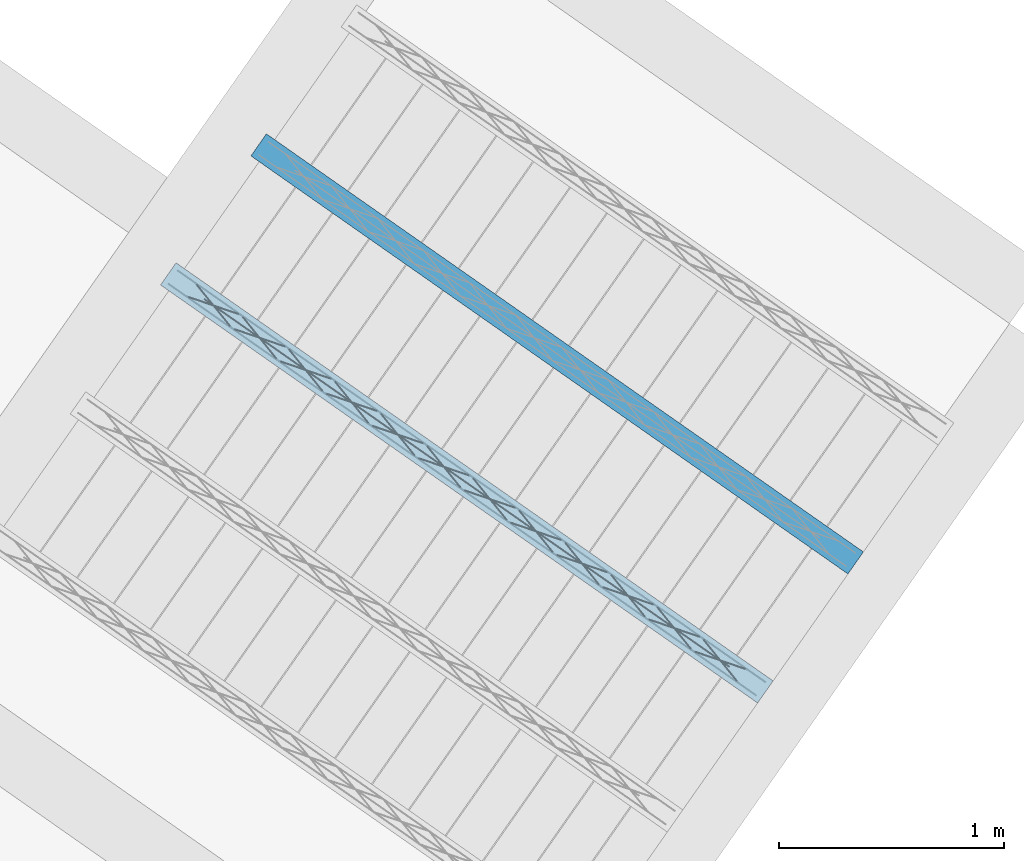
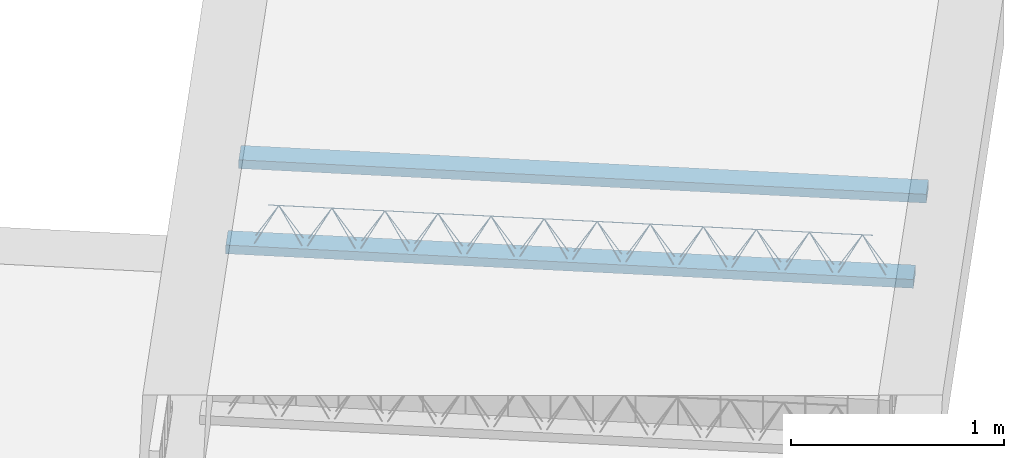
# One storey, part 24 of 46: 2 beams.
"""IFC2X3 building model written with IfcOpenShell, lengths in metres."""

from ifc_helpers import new_model, entity, si_unit, converted_unit, derived_unit, direction, frame, frame_2d, origin, origin_2d_with_axis, place, context, subcontext, project, spatial, rectangle, circle, extrude, material, type_object, element, save


model = new_model("IFC2X3")

# Units and contexts
model_context = context("Model", 3, precision=1e-05, world=origin(), true_north=direction((6.123031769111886e-17, 1.0)))
body_context = subcontext(model_context, "Body", "Model", "MODEL_VIEW")
ifc_project = project(units=[si_unit("LENGTHUNIT", "METRE"), si_unit("AREAUNIT", "SQUARE_METRE"), si_unit("VOLUMEUNIT", "CUBIC_METRE"), converted_unit("PLANEANGLEUNIT", "DEGREE", entity("IfcPlaneAngleMeasure", 0.017453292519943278), si_unit("PLANEANGLEUNIT", "RADIAN"), dimensions=[0, 0, 0, 0, 0, 0, 0]), si_unit("MASSUNIT", "GRAM", prefix="KILO"), derived_unit("MASSDENSITYUNIT", [(si_unit("MASSUNIT", "GRAM", prefix="KILO"), 1), (si_unit("LENGTHUNIT", "METRE"), -3)]), derived_unit("IONCONCENTRATIONUNIT", [(si_unit("MASSUNIT", "GRAM", prefix="KILO"), 1), (si_unit("LENGTHUNIT", "METRE"), -3)]), derived_unit("MOMENTOFINERTIAUNIT", [(si_unit("LENGTHUNIT", "METRE"), 4)]), si_unit("TIMEUNIT", "SECOND"), si_unit("FREQUENCYUNIT", "HERTZ"), si_unit("THERMODYNAMICTEMPERATUREUNIT", "DEGREE_CELSIUS"), derived_unit("THERMALTRANSMITTANCEUNIT", [(si_unit("MASSUNIT", "GRAM", prefix="KILO"), 1), (si_unit("THERMODYNAMICTEMPERATUREUNIT", "KELVIN"), -1), (si_unit("TIMEUNIT", "SECOND"), -3)]), derived_unit("THERMALCONDUCTANCEUNIT", [(si_unit("MASSUNIT", "GRAM", prefix="KILO"), 1), (si_unit("THERMODYNAMICTEMPERATUREUNIT", "KELVIN"), -1), (si_unit("TIMEUNIT", "SECOND"), -3), (si_unit("LENGTHUNIT", "METRE"), 1)]), derived_unit("VOLUMETRICFLOWRATEUNIT", [(si_unit("LENGTHUNIT", "METRE", prefix="DECI"), 3), (si_unit("TIMEUNIT", "SECOND"), -1)]), derived_unit("MASSFLOWRATEUNIT", [(si_unit("MASSUNIT", "GRAM", prefix="KILO"), 1), (si_unit("TIMEUNIT", "SECOND"), -1)]), derived_unit("ROTATIONALFREQUENCYUNIT", [(si_unit("TIMEUNIT", "SECOND"), -1)]), si_unit("ELECTRICCURRENTUNIT", "AMPERE"), si_unit("ELECTRICVOLTAGEUNIT", "VOLT"), si_unit("POWERUNIT", "WATT"), si_unit("FORCEUNIT", "NEWTON", prefix="KILO"), si_unit("ILLUMINANCEUNIT", "LUX"), si_unit("LUMINOUSFLUXUNIT", "LUMEN"), si_unit("LUMINOUSINTENSITYUNIT", "CANDELA"), si_unit("ENERGYUNIT", "JOULE"), derived_unit("USERDEFINED", [(si_unit("MASSUNIT", "GRAM", prefix="KILO"), -1), (si_unit("LENGTHUNIT", "METRE"), -2), (si_unit("TIMEUNIT", "SECOND"), 3), (si_unit("LUMINOUSFLUXUNIT", "LUMEN"), 1)]), derived_unit("USERDEFINED", [(si_unit("MASSUNIT", "GRAM", prefix="KILO"), 1), (si_unit("TIMEUNIT", "SECOND"), -3), (si_unit("LENGTHUNIT", "METRE"), 3), (si_unit("ELECTRICCURRENTUNIT", "AMPERE"), -2)]), derived_unit("SOUNDPOWERUNIT", [(si_unit("MASSUNIT", "GRAM", prefix="KILO"), 1), (si_unit("TIMEUNIT", "SECOND"), -3), (si_unit("LENGTHUNIT", "METRE"), 2)]), derived_unit("SOUNDPRESSUREUNIT", [(si_unit("MASSUNIT", "GRAM", prefix="KILO"), 1), (si_unit("LENGTHUNIT", "METRE"), -1), (si_unit("TIMEUNIT", "SECOND"), -2)]), derived_unit("LINEARVELOCITYUNIT", [(si_unit("LENGTHUNIT", "METRE"), 1), (si_unit("TIMEUNIT", "SECOND"), -1)]), si_unit("PRESSUREUNIT", "PASCAL"), derived_unit("USERDEFINED", [(si_unit("MASSUNIT", "GRAM", prefix="KILO"), 1), (si_unit("LENGTHUNIT", "METRE"), -2), (si_unit("TIMEUNIT", "SECOND"), -2)]), derived_unit("LINEARFORCEUNIT", [(si_unit("MASSUNIT", "GRAM", prefix="KILO"), 1), (si_unit("TIMEUNIT", "SECOND"), -2)]), derived_unit("PLANARFORCEUNIT", [(si_unit("MASSUNIT", "GRAM", prefix="KILO"), 1), (si_unit("LENGTHUNIT", "METRE"), -1), (si_unit("TIMEUNIT", "SECOND"), -2)]), derived_unit("SPECIFICHEATCAPACITYUNIT", [(si_unit("THERMODYNAMICTEMPERATUREUNIT", "KELVIN"), -1), (si_unit("LENGTHUNIT", "METRE"), 2), (si_unit("TIMEUNIT", "SECOND"), -2)]), derived_unit("HEATFLUXDENSITYUNIT", [(si_unit("MASSUNIT", "GRAM", prefix="KILO"), 1), (si_unit("TIMEUNIT", "SECOND"), -3)]), derived_unit("HEATINGVALUEUNIT", [(si_unit("LENGTHUNIT", "METRE"), 2), (si_unit("TIMEUNIT", "SECOND"), -2)]), derived_unit("VAPORPERMEABILITYUNIT", [(si_unit("LENGTHUNIT", "METRE"), -1), (si_unit("TIMEUNIT", "SECOND"), 1)]), derived_unit("DYNAMICVISCOSITYUNIT", [(si_unit("MASSUNIT", "GRAM", prefix="KILO"), 1), (si_unit("TIMEUNIT", "SECOND"), -1), (si_unit("LENGTHUNIT", "METRE"), -1)]), derived_unit("THERMALEXPANSIONCOEFFICIENTUNIT", [(si_unit("THERMODYNAMICTEMPERATUREUNIT", "KELVIN"), -1)]), derived_unit("MODULUSOFELASTICITYUNIT", [(si_unit("MASSUNIT", "GRAM", prefix="KILO"), 1), (si_unit("LENGTHUNIT", "METRE"), -1), (si_unit("TIMEUNIT", "SECOND"), -2)]), derived_unit("ISOTHERMALMOISTURECAPACITYUNIT", [(si_unit("MASSUNIT", "GRAM", prefix="KILO"), -1), (si_unit("LENGTHUNIT", "METRE"), 3)]), derived_unit("MOISTUREDIFFUSIVITYUNIT", [(si_unit("TIMEUNIT", "SECOND"), -1), (si_unit("LENGTHUNIT", "METRE"), 2)]), derived_unit("MASSPERLENGTHUNIT", [(si_unit("MASSUNIT", "GRAM", prefix="KILO"), 1), (si_unit("LENGTHUNIT", "METRE"), -1)]), derived_unit("THERMALRESISTANCEUNIT", [(si_unit("MASSUNIT", "GRAM", prefix="KILO"), -1), (si_unit("TIMEUNIT", "SECOND"), 3), (si_unit("THERMODYNAMICTEMPERATUREUNIT", "KELVIN"), 1)]), derived_unit("ACCELERATIONUNIT", [(si_unit("LENGTHUNIT", "METRE"), 1), (si_unit("TIMEUNIT", "SECOND"), -2)]), derived_unit("ANGULARVELOCITYUNIT", [(si_unit("TIMEUNIT", "SECOND"), -1), (si_unit("PLANEANGLEUNIT", "RADIAN"), 1)]), derived_unit("LINEARSTIFFNESSUNIT", [(si_unit("MASSUNIT", "GRAM", prefix="KILO"), 1), (si_unit("TIMEUNIT", "SECOND"), -2)]), derived_unit("WARPINGCONSTANTUNIT", [(si_unit("LENGTHUNIT", "METRE"), 6)]), derived_unit("LINEARMOMENTUNIT", [(si_unit("MASSUNIT", "GRAM", prefix="KILO"), 1), (si_unit("LENGTHUNIT", "METRE"), 1), (si_unit("TIMEUNIT", "SECOND"), -2)]), derived_unit("TORQUEUNIT", [(si_unit("MASSUNIT", "GRAM", prefix="KILO"), 1), (si_unit("LENGTHUNIT", "METRE"), 2), (si_unit("TIMEUNIT", "SECOND"), -2)])], contexts=[model_context])

# Site, building, storey
site_placement = place(None, origin())
site = spatial("IfcSite", under=ifc_project, at=site_placement, Name="Default", CompositionType="ELEMENT")
building_placement = place(site_placement, origin())
building = spatial("IfcBuilding", under=site, at=building_placement, CompositionType="ELEMENT")
storey_placement = place(building_placement, frame((0.0, 0.0, 99.52000000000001)))
storey = spatial("IfcBuildingStorey", under=building, at=storey_placement, Name="F1", CompositionType="ELEMENT", Elevation=99.52000000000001)

# Beams
beam_type = type_object("IfcBeamType", Name="Vigueta 3 (Paño 3) (Mf = 14.33)", PredefinedType="JOIST")
beam_1_placement = place(storey_placement, origin())
element("IfcBeam", 1, at=beam_1_placement, inside=storey, type_object=beam_type, Name="Vigueta 3 (Paño 3) (Mf = 14.33)", ObjectType="Mf = 14.33", context=body_context, shape_type="SweptSolid", body=[
    extrude(rectangle(XDim=3.24, YDim=0.11999999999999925, at=frame_2d((6.661338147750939e-16, 1.0824674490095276e-15), x_axis=(1.0, 0.0))), frame((12.608005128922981, 5.027915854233, 0.2000000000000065), z_axis=(0.0, 0.0, 1.0), x_axis=(0.8191520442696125, -0.5735764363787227, 0.0)), (0.0, 0.0, 1.0), 0.04999999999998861),
    extrude(circle(Radius=0.0025, at=origin_2d_with_axis()), frame((11.279989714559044, 5.913854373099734, 0.22500000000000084), z_axis=(0.8191520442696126, -0.5735764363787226, 0.0), x_axis=(-0.5735764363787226, -0.8191520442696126, 0.0)), (0.0, 0.0, 1.0), 3.1920000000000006),
    extrude(circle(Radius=0.0025, at=origin_2d_with_axis()), frame((13.775296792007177, 4.21056943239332, 0.4500000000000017), z_axis=(-0.8191520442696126, 0.5735764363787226, 0.0), x_axis=(-0.5735764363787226, -0.8191520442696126, 0.0)), (0.0, 0.0, 1.0), 2.8499999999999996),
    extrude(circle(Radius=0.0025, at=origin_2d_with_axis()), frame((13.816084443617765, 4.13806172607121, 0.22500000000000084), z_axis=(-0.3145304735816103, 0.389334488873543, 0.8657304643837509), x_axis=(-0.7778747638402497, -0.6284193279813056, 0.0)), (0.0, 0.0, 1.0), 0.2598961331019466),
    extrude(circle(Radius=0.0025, at=origin_2d_with_axis()), frame((13.611296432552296, 4.281455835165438, 0.22499999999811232), z_axis=(0.47343050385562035, -0.1624017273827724, 0.8657304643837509), x_axis=(-0.3244721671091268, -0.9458952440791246, 0.0)), (0.0, 0.0, 1.0), 0.25989613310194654),
    extrude(circle(Radius=0.0025, at=origin_2d_with_axis()), frame((13.611296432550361, 4.2814558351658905, 0.22500000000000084), z_axis=(-0.3145304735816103, 0.389334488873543, 0.8657304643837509), x_axis=(-0.7778747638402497, -0.6284193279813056, 0.0)), (0.0, 0.0, 1.0), 0.2598961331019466),
    extrude(circle(Radius=0.0025, at=origin_2d_with_axis()), frame((13.406508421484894, 4.42484994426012, 0.22499999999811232), z_axis=(0.47343050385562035, -0.1624017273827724, 0.8657304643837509), x_axis=(-0.3244721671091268, -0.9458952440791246, 0.0)), (0.0, 0.0, 1.0), 0.25989613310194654),
    extrude(circle(Radius=0.0025, at=origin_2d_with_axis()), frame((13.406508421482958, 4.424849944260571, 0.22500000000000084), z_axis=(-0.3145304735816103, 0.389334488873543, 0.8657304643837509), x_axis=(-0.7778747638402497, -0.6284193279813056, 0.0)), (0.0, 0.0, 1.0), 0.2598961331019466),
    extrude(circle(Radius=0.0025, at=origin_2d_with_axis()), frame((13.20172041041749, 4.5682440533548, 0.22499999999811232), z_axis=(0.47343050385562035, -0.1624017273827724, 0.8657304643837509), x_axis=(-0.3244721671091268, -0.9458952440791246, 0.0)), (0.0, 0.0, 1.0), 0.25989613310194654),
    extrude(circle(Radius=0.0025, at=origin_2d_with_axis()), frame((13.201720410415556, 4.568244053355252, 0.22500000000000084), z_axis=(-0.3145304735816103, 0.389334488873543, 0.8657304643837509), x_axis=(-0.7778747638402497, -0.6284193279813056, 0.0)), (0.0, 0.0, 1.0), 0.2598961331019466),
    extrude(circle(Radius=0.0025, at=origin_2d_with_axis()), frame((12.996932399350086, 4.71163816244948, 0.22499999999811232), z_axis=(0.47343050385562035, -0.1624017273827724, 0.8657304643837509), x_axis=(-0.3244721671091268, -0.9458952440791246, 0.0)), (0.0, 0.0, 1.0), 0.25989613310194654),
    extrude(circle(Radius=0.0025, at=origin_2d_with_axis()), frame((12.996932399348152, 4.711638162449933, 0.22500000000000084), z_axis=(-0.3145304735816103, 0.389334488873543, 0.8657304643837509), x_axis=(-0.7778747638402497, -0.6284193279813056, 0.0)), (0.0, 0.0, 1.0), 0.2598961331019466),
    extrude(circle(Radius=0.0025, at=origin_2d_with_axis()), frame((12.792144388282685, 4.855032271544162, 0.22499999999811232), z_axis=(0.47343050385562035, -0.1624017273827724, 0.8657304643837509), x_axis=(-0.3244721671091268, -0.9458952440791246, 0.0)), (0.0, 0.0, 1.0), 0.25989613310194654),
    extrude(circle(Radius=0.0025, at=origin_2d_with_axis()), frame((12.792144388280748, 4.855032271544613, 0.22500000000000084), z_axis=(-0.3145304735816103, 0.389334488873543, 0.8657304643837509), x_axis=(-0.7778747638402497, -0.6284193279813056, 0.0)), (0.0, 0.0, 1.0), 0.2598961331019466),
    extrude(circle(Radius=0.0025, at=origin_2d_with_axis()), frame((12.587356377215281, 4.998426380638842, 0.22499999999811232), z_axis=(0.47343050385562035, -0.1624017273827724, 0.8657304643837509), x_axis=(-0.3244721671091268, -0.9458952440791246, 0.0)), (0.0, 0.0, 1.0), 0.25989613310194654),
    extrude(circle(Radius=0.0025, at=origin_2d_with_axis()), frame((12.587356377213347, 4.998426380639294, 0.22500000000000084), z_axis=(-0.3145304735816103, 0.389334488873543, 0.8657304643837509), x_axis=(-0.7778747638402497, -0.6284193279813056, 0.0)), (0.0, 0.0, 1.0), 0.2598961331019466),
    extrude(circle(Radius=0.0025, at=origin_2d_with_axis()), frame((12.382568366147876, 5.141820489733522, 0.22499999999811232), z_axis=(0.47343050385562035, -0.1624017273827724, 0.8657304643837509), x_axis=(-0.3244721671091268, -0.9458952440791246, 0.0)), (0.0, 0.0, 1.0), 0.25989613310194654),
    extrude(circle(Radius=0.0025, at=origin_2d_with_axis()), frame((12.382568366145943, 5.141820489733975, 0.22500000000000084), z_axis=(-0.3145304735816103, 0.389334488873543, 0.8657304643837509), x_axis=(-0.7778747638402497, -0.6284193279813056, 0.0)), (0.0, 0.0, 1.0), 0.2598961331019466),
    extrude(circle(Radius=0.0025, at=origin_2d_with_axis()), frame((12.177780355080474, 5.285214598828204, 0.22499999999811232), z_axis=(0.47343050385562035, -0.1624017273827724, 0.8657304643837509), x_axis=(-0.3244721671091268, -0.9458952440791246, 0.0)), (0.0, 0.0, 1.0), 0.25989613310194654),
    extrude(circle(Radius=0.0025, at=origin_2d_with_axis()), frame((12.177780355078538, 5.285214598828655, 0.22500000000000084), z_axis=(-0.3145304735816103, 0.389334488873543, 0.8657304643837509), x_axis=(-0.7778747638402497, -0.6284193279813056, 0.0)), (0.0, 0.0, 1.0), 0.2598961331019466),
    extrude(circle(Radius=0.0025, at=origin_2d_with_axis()), frame((11.97299234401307, 5.4286087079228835, 0.22499999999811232), z_axis=(0.47343050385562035, -0.1624017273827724, 0.8657304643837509), x_axis=(-0.3244721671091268, -0.9458952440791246, 0.0)), (0.0, 0.0, 1.0), 0.25989613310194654),
    extrude(circle(Radius=0.0025, at=origin_2d_with_axis()), frame((11.972992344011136, 5.428608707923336, 0.22500000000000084), z_axis=(-0.3145304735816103, 0.389334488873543, 0.8657304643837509), x_axis=(-0.7778747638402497, -0.6284193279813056, 0.0)), (0.0, 0.0, 1.0), 0.2598961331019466),
    extrude(circle(Radius=0.0025, at=origin_2d_with_axis()), frame((11.768204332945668, 5.572002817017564, 0.22499999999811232), z_axis=(0.47343050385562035, -0.1624017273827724, 0.8657304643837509), x_axis=(-0.3244721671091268, -0.9458952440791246, 0.0)), (0.0, 0.0, 1.0), 0.25989613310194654),
    extrude(circle(Radius=0.0025, at=origin_2d_with_axis()), frame((11.768204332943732, 5.572002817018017, 0.22500000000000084), z_axis=(-0.3145304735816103, 0.389334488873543, 0.8657304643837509), x_axis=(-0.7778747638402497, -0.6284193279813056, 0.0)), (0.0, 0.0, 1.0), 0.2598961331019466),
    extrude(circle(Radius=0.0025, at=origin_2d_with_axis()), frame((11.563416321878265, 5.715396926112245, 0.22499999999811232), z_axis=(0.47343050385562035, -0.1624017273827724, 0.8657304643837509), x_axis=(-0.3244721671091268, -0.9458952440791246, 0.0)), (0.0, 0.0, 1.0), 0.25989613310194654),
    extrude(circle(Radius=0.0025, at=origin_2d_with_axis()), frame((11.56341632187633, 5.715396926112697, 0.22500000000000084), z_axis=(-0.3145304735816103, 0.389334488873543, 0.8657304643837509), x_axis=(-0.7778747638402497, -0.6284193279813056, 0.0)), (0.0, 0.0, 1.0), 0.2598961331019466),
    extrude(circle(Radius=0.0025, at=origin_2d_with_axis()), frame((11.358628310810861, 5.858791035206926, 0.22499999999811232), z_axis=(0.47343050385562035, -0.1624017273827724, 0.8657304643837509), x_axis=(-0.3244721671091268, -0.9458952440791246, 0.0)), (0.0, 0.0, 1.0), 0.25989613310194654),
    extrude(circle(Radius=0.0025, at=origin_2d_with_axis()), frame((13.936020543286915, 4.141977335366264, 0.22500000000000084), z_axis=(-0.8191520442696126, 0.5735764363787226, 0.0), x_axis=(-0.5735764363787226, -0.8191520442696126, 0.0)), (0.0, 0.0, 1.0), 3.192),
    extrude(circle(Radius=0.0025, at=origin_2d_with_axis()), frame((13.857381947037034, 4.197040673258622, 0.22500000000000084), z_axis=(-0.47343050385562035, 0.1624017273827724, 0.8657304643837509), x_axis=(-0.3244721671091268, -0.9458952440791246, 0.0)), (0.0, 0.0, 1.0), 0.25989613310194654),
    extrude(circle(Radius=0.0025, at=origin_2d_with_axis()), frame((13.652593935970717, 4.3404347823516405, 0.22499999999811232), z_axis=(0.3145304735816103, -0.389334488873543, 0.8657304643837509), x_axis=(-0.7778747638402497, -0.6284193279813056, 0.0)), (0.0, 0.0, 1.0), 0.2598961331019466),
    extrude(circle(Radius=0.0025, at=origin_2d_with_axis()), frame((13.65259393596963, 4.340434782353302, 0.22500000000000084), z_axis=(-0.47343050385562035, 0.1624017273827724, 0.8657304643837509), x_axis=(-0.3244721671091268, -0.9458952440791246, 0.0)), (0.0, 0.0, 1.0), 0.25989613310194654),
    extrude(circle(Radius=0.0025, at=origin_2d_with_axis()), frame((13.447805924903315, 4.483828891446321, 0.22499999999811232), z_axis=(0.3145304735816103, -0.389334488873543, 0.8657304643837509), x_axis=(-0.7778747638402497, -0.6284193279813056, 0.0)), (0.0, 0.0, 1.0), 0.2598961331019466),
    extrude(circle(Radius=0.0025, at=origin_2d_with_axis()), frame((13.447805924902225, 4.483828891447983, 0.22500000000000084), z_axis=(-0.47343050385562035, 0.1624017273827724, 0.8657304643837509), x_axis=(-0.3244721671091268, -0.9458952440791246, 0.0)), (0.0, 0.0, 1.0), 0.25989613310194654),
    extrude(circle(Radius=0.0025, at=origin_2d_with_axis()), frame((13.24301791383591, 4.627223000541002, 0.22499999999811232), z_axis=(0.3145304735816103, -0.389334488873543, 0.8657304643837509), x_axis=(-0.7778747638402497, -0.6284193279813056, 0.0)), (0.0, 0.0, 1.0), 0.2598961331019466),
    extrude(circle(Radius=0.0025, at=origin_2d_with_axis()), frame((13.243017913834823, 4.6272230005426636, 0.22500000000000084), z_axis=(-0.47343050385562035, 0.1624017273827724, 0.8657304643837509), x_axis=(-0.3244721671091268, -0.9458952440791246, 0.0)), (0.0, 0.0, 1.0), 0.25989613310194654),
    extrude(circle(Radius=0.0025, at=origin_2d_with_axis()), frame((13.038229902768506, 4.770617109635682, 0.22499999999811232), z_axis=(0.3145304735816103, -0.389334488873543, 0.8657304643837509), x_axis=(-0.7778747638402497, -0.6284193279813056, 0.0)), (0.0, 0.0, 1.0), 0.2598961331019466),
    extrude(circle(Radius=0.0025, at=origin_2d_with_axis()), frame((13.03822990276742, 4.770617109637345, 0.22500000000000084), z_axis=(-0.47343050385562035, 0.1624017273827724, 0.8657304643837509), x_axis=(-0.3244721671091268, -0.9458952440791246, 0.0)), (0.0, 0.0, 1.0), 0.25989613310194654),
    extrude(circle(Radius=0.0025, at=origin_2d_with_axis()), frame((12.833441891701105, 4.914011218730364, 0.22499999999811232), z_axis=(0.3145304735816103, -0.389334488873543, 0.8657304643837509), x_axis=(-0.7778747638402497, -0.6284193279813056, 0.0)), (0.0, 0.0, 1.0), 0.2598961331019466),
    extrude(circle(Radius=0.0025, at=origin_2d_with_axis()), frame((12.833441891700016, 4.914011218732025, 0.22500000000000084), z_axis=(-0.47343050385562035, 0.1624017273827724, 0.8657304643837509), x_axis=(-0.3244721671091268, -0.9458952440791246, 0.0)), (0.0, 0.0, 1.0), 0.25989613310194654),
    extrude(circle(Radius=0.0025, at=origin_2d_with_axis()), frame((12.628653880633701, 5.057405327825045, 0.22499999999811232), z_axis=(0.3145304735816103, -0.389334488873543, 0.8657304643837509), x_axis=(-0.7778747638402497, -0.6284193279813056, 0.0)), (0.0, 0.0, 1.0), 0.2598961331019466),
    extrude(circle(Radius=0.0025, at=origin_2d_with_axis()), frame((12.628653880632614, 5.0574053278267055, 0.22500000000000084), z_axis=(-0.47343050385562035, 0.1624017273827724, 0.8657304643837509), x_axis=(-0.3244721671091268, -0.9458952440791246, 0.0)), (0.0, 0.0, 1.0), 0.25989613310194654),
    extrude(circle(Radius=0.0025, at=origin_2d_with_axis()), frame((12.423865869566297, 5.200799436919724, 0.22499999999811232), z_axis=(0.3145304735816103, -0.389334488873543, 0.8657304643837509), x_axis=(-0.7778747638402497, -0.6284193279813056, 0.0)), (0.0, 0.0, 1.0), 0.2598961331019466),
    extrude(circle(Radius=0.0025, at=origin_2d_with_axis()), frame((12.42386586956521, 5.200799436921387, 0.22500000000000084), z_axis=(-0.47343050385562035, 0.1624017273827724, 0.8657304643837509), x_axis=(-0.3244721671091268, -0.9458952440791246, 0.0)), (0.0, 0.0, 1.0), 0.25989613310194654),
    extrude(circle(Radius=0.0025, at=origin_2d_with_axis()), frame((12.219077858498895, 5.344193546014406, 0.22499999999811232), z_axis=(0.3145304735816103, -0.389334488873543, 0.8657304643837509), x_axis=(-0.7778747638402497, -0.6284193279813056, 0.0)), (0.0, 0.0, 1.0), 0.2598961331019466),
    extrude(circle(Radius=0.0025, at=origin_2d_with_axis()), frame((12.219077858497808, 5.344193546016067, 0.22500000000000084), z_axis=(-0.47343050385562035, 0.1624017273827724, 0.8657304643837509), x_axis=(-0.3244721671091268, -0.9458952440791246, 0.0)), (0.0, 0.0, 1.0), 0.25989613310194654),
    extrude(circle(Radius=0.0025, at=origin_2d_with_axis()), frame((12.014289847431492, 5.4875876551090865, 0.22499999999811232), z_axis=(0.3145304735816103, -0.389334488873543, 0.8657304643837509), x_axis=(-0.7778747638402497, -0.6284193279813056, 0.0)), (0.0, 0.0, 1.0), 0.2598961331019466),
    extrude(circle(Radius=0.0025, at=origin_2d_with_axis()), frame((12.014289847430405, 5.487587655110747, 0.22500000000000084), z_axis=(-0.47343050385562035, 0.1624017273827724, 0.8657304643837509), x_axis=(-0.3244721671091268, -0.9458952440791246, 0.0)), (0.0, 0.0, 1.0), 0.25989613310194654),
    extrude(circle(Radius=0.0025, at=origin_2d_with_axis()), frame((11.80950183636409, 5.630981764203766, 0.22499999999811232), z_axis=(0.3145304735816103, -0.389334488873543, 0.8657304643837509), x_axis=(-0.7778747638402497, -0.6284193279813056, 0.0)), (0.0, 0.0, 1.0), 0.2598961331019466),
    extrude(circle(Radius=0.0025, at=origin_2d_with_axis()), frame((11.809501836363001, 5.630981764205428, 0.22500000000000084), z_axis=(-0.47343050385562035, 0.1624017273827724, 0.8657304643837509), x_axis=(-0.3244721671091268, -0.9458952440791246, 0.0)), (0.0, 0.0, 1.0), 0.25989613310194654),
    extrude(circle(Radius=0.0025, at=origin_2d_with_axis()), frame((11.604713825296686, 5.774375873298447, 0.22499999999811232), z_axis=(0.3145304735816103, -0.389334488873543, 0.8657304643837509), x_axis=(-0.7778747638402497, -0.6284193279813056, 0.0)), (0.0, 0.0, 1.0), 0.2598961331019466),
    extrude(circle(Radius=0.0025, at=origin_2d_with_axis()), frame((11.6047138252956, 5.774375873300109, 0.22500000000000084), z_axis=(-0.47343050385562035, 0.1624017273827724, 0.8657304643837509), x_axis=(-0.3244721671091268, -0.9458952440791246, 0.0)), (0.0, 0.0, 1.0), 0.25989613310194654),
    extrude(circle(Radius=0.0025, at=origin_2d_with_axis()), frame((11.399925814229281, 5.9177699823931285, 0.22499999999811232), z_axis=(0.3145304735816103, -0.389334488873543, 0.8657304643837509), x_axis=(-0.7778747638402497, -0.6284193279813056, 0.0)), (0.0, 0.0, 1.0), 0.2598961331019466),
])
ifc_material = material(Name="Hormigón armado")
beam_2_placement = place(storey_placement, origin())
element("IfcBeam", 2, at=beam_2_placement, inside=storey, material=ifc_material, Name="238205", context=body_context, shape_type="SweptSolid", body=[
    extrude(rectangle(XDim=0.04999999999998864, YDim=0.12000000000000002, at=frame_2d((0.0, -1.0651202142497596e-15), x_axis=(1.0, 0.0))), frame((11.682482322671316, 6.530516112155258, 0.22500000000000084), z_axis=(0.8191520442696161, -0.5735764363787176, 0.0), x_axis=(0.0, 0.0, -1.0)), (0.0, 0.0, 1.0), 3.2399999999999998),
])

save(model, "model.ifc")
